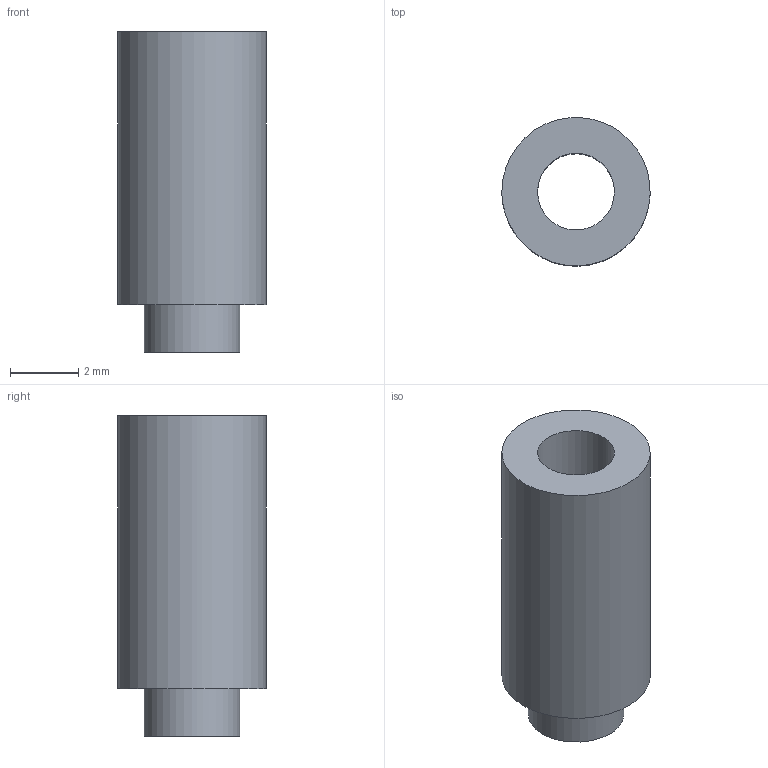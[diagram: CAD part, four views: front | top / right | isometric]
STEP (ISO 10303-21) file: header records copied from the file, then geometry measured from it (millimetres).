
FILE_DESCRIPTION(('FreeCAD Model'),'2;1');
FILE_NAME('Open CASCADE Shape Model','2026-03-20T17:23:22',('Author'),( ''),'Open CASCADE STEP processor 7.8','FreeCAD','Unknown');
FILE_SCHEMA(('AP242_MANAGED_MODEL_BASED_3D_ENGINEERING_MIM_LF. {1 0 10303 442 1 1 4 }'));
Length unit declared in the file: millimetre
Products named in the file (1): 1_transformed
Bounding box: 4.35 x 4.34 x 9.4 mm (x, y, z)
Volume: 90.9 mm3; surface area: 210.4 mm2
Topology: 1 solids, 1 shells, 6 faces, 9 edges, 6 vertices
Faces by surface type: bspline 6
Entity records: 201 total; most frequent: CARTESIAN_POINT 109, ORIENTED_EDGE 18, FACE_BOUND 9, EDGE_LOOP 9, EDGE_CURVE 9, ADVANCED_FACE 6, VERTEX_POINT 6, B_SPLINE_SURFACE_WITH_KNOTS 3
